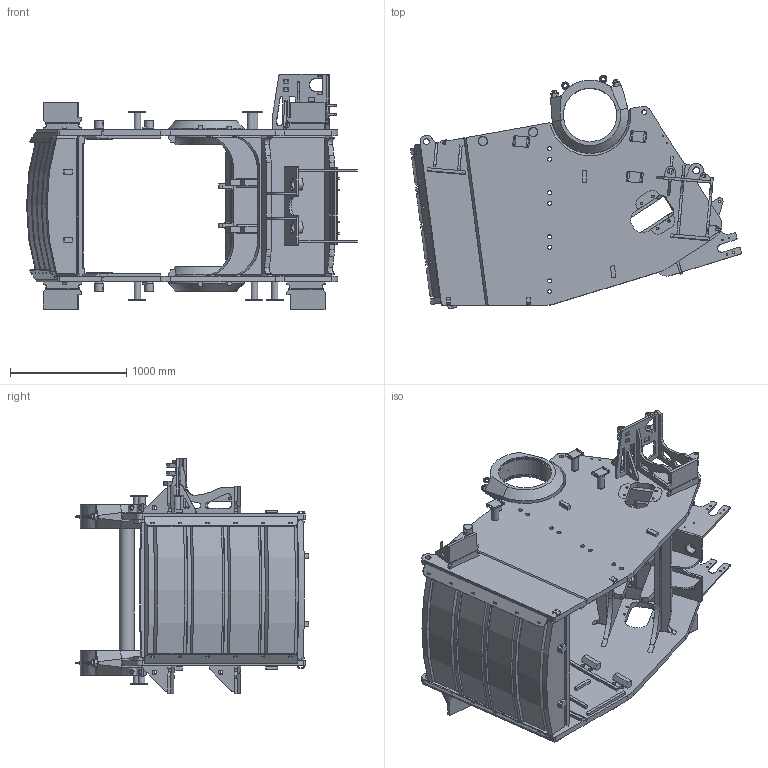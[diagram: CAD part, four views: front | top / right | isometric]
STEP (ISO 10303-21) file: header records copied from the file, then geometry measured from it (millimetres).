
FILE_DESCRIPTION(/* description */ (''),/* implementation_level */ '2;1');
FILE_NAME(/* name */ '4497784ugm000~06.stp',/* time_stamp */ '2013-10-24T08:21:00+02:00',/* author */ (''),/* organization */ (''),/* preprocessor_version */ 'ST-DEVELOPER v11',/* originating_system */ 'SIEMENS UGS NX 6.0',/* authorisation */ '');
FILE_SCHEMA (('AUTOMOTIVE_DESIGN { 1 0 10303 214 1 1 1 1 }'));
Length unit declared in the file: millimetre
Products named in the file (1): klka6E655smo
Bounding box: 2851.6 x 2009.65 x 2030 mm (x, y, z)
Volume: 736899690 mm3; surface area: 42883496.7 mm2
Topology: 192 solids, 192 shells, 3102 faces, 7912 edges, 5212 vertices
Faces by surface type: plane 1852, cylinder 822, cone 180, bspline 136, torus 112
Full cylindrical faces by diameter (mm): 3.3 x2, 5 x4, 6.8 x4, 8 x6, 8.5 x2, 10 x2, 11 x4, 12 x2, 13.6 x4, 13.835 x4, 14 x24, 15.8 x2, 16 x4, 17.5 x12, 20 x2, 21 x8, 22.5 x2, 25 x2, 30 x4, 32 x10, 33 x4, 35 x20, 36 x8, 38 x4, 40 x18, 44.3 x6, 50 x4, 59.8 x8, 60 x15, 60.3 x6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
Entity records: 97487 total; most frequent: CARTESIAN_POINT 22212, DIRECTION 14881, ORIENTED_EDGE 14598, EDGE_CURVE 7299, AXIS2_PLACEMENT_3D 5155, VERTEX_POINT 4974, LINE 4571, VECTOR 4571
